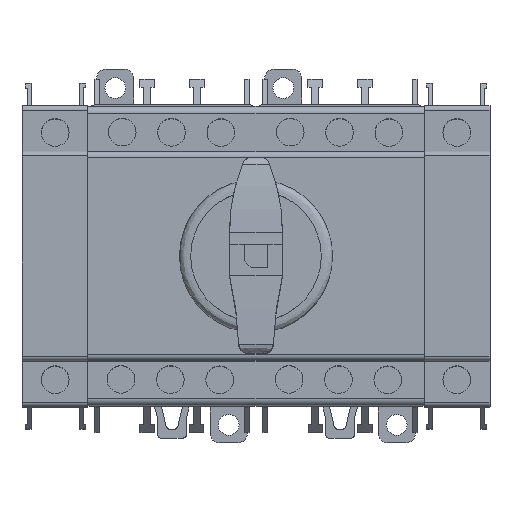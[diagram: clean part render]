
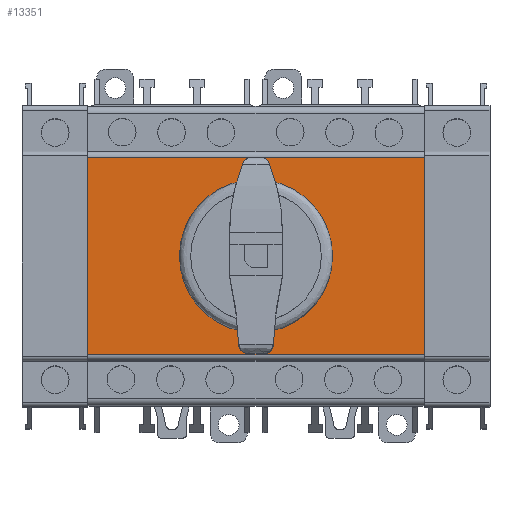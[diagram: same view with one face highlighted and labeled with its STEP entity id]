
A CAD part, top view. The second image highlights one B-rep face of the part: STEP entity #13351.
In plain terms, the highlighted planar face has unit normal (0, 0, 1).
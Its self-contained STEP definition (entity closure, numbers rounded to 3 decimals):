
#480 = VERTEX_POINT ( 'NONE', #16716 ) ;
#580 = VECTOR ( 'NONE', #3072, 1000. ) ;
#1878 = EDGE_CURVE ( 'NONE', #9233, #18242, #19111, .T. ) ;
#3072 = DIRECTION ( 'NONE',  ( -1., 0., 0. ) ) ;
#3726 = PLANE ( 'NONE',  #6649 ) ;
#4036 = CARTESIAN_POINT ( 'NONE',  ( 36.424, 21.281, 73.7 ) ) ;
#4342 = VERTEX_POINT ( 'NONE', #9005 ) ;
#4454 = DIRECTION ( 'NONE',  ( 0., 0., 1. ) ) ;
#4745 = DIRECTION ( 'NONE',  ( 0., 0., 1. ) ) ;
#5096 = DIRECTION ( 'NONE',  ( 0., 1., 0. ) ) ;
#5141 = VERTEX_POINT ( 'NONE', #22315 ) ;
#5589 = CIRCLE ( 'NONE', #21021, 16.591 ) ;
#6649 = AXIS2_PLACEMENT_3D ( 'NONE', #16387, #7361, #20032 ) ;
#6910 = DIRECTION ( 'NONE',  ( 0., 1., 0. ) ) ;
#7182 = EDGE_CURVE ( 'NONE', #480, #9233, #11393, .T. ) ;
#7361 = DIRECTION ( 'NONE',  ( 0., 0., 1. ) ) ;
#7547 = EDGE_LOOP ( 'NONE', ( #15068, #21455, #21023, #9937 ) ) ;
#8753 = CARTESIAN_POINT ( 'NONE',  ( -36.424, -21.486, 73.7 ) ) ;
#9005 = CARTESIAN_POINT ( 'NONE',  ( -16.591, -0.153, 73.7 ) ) ;
#9233 = VERTEX_POINT ( 'NONE', #20749 ) ;
#9306 = EDGE_CURVE ( 'NONE', #4342, #5141, #11278, .T. ) ;
#9937 = ORIENTED_EDGE ( 'NONE', *, *, #1878, .T. ) ;
#10041 = AXIS2_PLACEMENT_3D ( 'NONE', #15589, #4745, #17400 ) ;
#10475 = CARTESIAN_POINT ( 'NONE',  ( -36.424, -21.486, 73.7 ) ) ;
#10603 = ORIENTED_EDGE ( 'NONE', *, *, #9306, .F. ) ;
#10692 = VECTOR ( 'NONE', #5096, 1000. ) ;
#11278 = CIRCLE ( 'NONE', #10041, 16.591 ) ;
#11393 = LINE ( 'NONE', #23199, #21016 ) ;
#12582 = VECTOR ( 'NONE', #13153, 1000. ) ;
#12773 = EDGE_LOOP ( 'NONE', ( #17378, #10603 ) ) ;
#13153 = DIRECTION ( 'NONE',  ( -1., 0., 0. ) ) ;
#13351 = ADVANCED_FACE ( 'NONE', ( #22232, #16851 ), #3726, .T. ) ;
#15068 = ORIENTED_EDGE ( 'NONE', *, *, #18017, .F. ) ;
#15284 = VERTEX_POINT ( 'NONE', #8753 ) ;
#15301 = CARTESIAN_POINT ( 'NONE',  ( 0., -0.153, 73.7 ) ) ;
#15589 = CARTESIAN_POINT ( 'NONE',  ( 0., -0.153, 73.7 ) ) ;
#16387 = CARTESIAN_POINT ( 'NONE',  ( 36.424, -21.486, 73.7 ) ) ;
#16716 = CARTESIAN_POINT ( 'NONE',  ( 36.424, -21.486, 73.7 ) ) ;
#16736 = CARTESIAN_POINT ( 'NONE',  ( -36.424, 21.281, 73.7 ) ) ;
#16768 = EDGE_CURVE ( 'NONE', #480, #15284, #19831, .T. ) ;
#16851 = FACE_OUTER_BOUND ( 'NONE', #7547, .T. ) ;
#17122 = DIRECTION ( 'NONE',  ( 1., 0., 0. ) ) ;
#17378 = ORIENTED_EDGE ( 'NONE', *, *, #18314, .F. ) ;
#17400 = DIRECTION ( 'NONE',  ( 1., 0., 0. ) ) ;
#18017 = EDGE_CURVE ( 'NONE', #15284, #18242, #20321, .T. ) ;
#18242 = VERTEX_POINT ( 'NONE', #16736 ) ;
#18314 = EDGE_CURVE ( 'NONE', #5141, #4342, #5589, .T. ) ;
#19111 = LINE ( 'NONE', #4036, #12582 ) ;
#19831 = LINE ( 'NONE', #21185, #580 ) ;
#20032 = DIRECTION ( 'NONE',  ( 1., 0., 0. ) ) ;
#20321 = LINE ( 'NONE', #10475, #10692 ) ;
#20749 = CARTESIAN_POINT ( 'NONE',  ( 36.424, 21.281, 73.7 ) ) ;
#21016 = VECTOR ( 'NONE', #6910, 1000. ) ;
#21021 = AXIS2_PLACEMENT_3D ( 'NONE', #15301, #4454, #17122 ) ;
#21023 = ORIENTED_EDGE ( 'NONE', *, *, #7182, .T. ) ;
#21185 = CARTESIAN_POINT ( 'NONE',  ( 36.424, -21.486, 73.7 ) ) ;
#21455 = ORIENTED_EDGE ( 'NONE', *, *, #16768, .F. ) ;
#22232 = FACE_BOUND ( 'NONE', #12773, .T. ) ;
#22315 = CARTESIAN_POINT ( 'NONE',  ( 16.591, -0.153, 73.7 ) ) ;
#23199 = CARTESIAN_POINT ( 'NONE',  ( 36.424, -21.486, 73.7 ) ) ;
